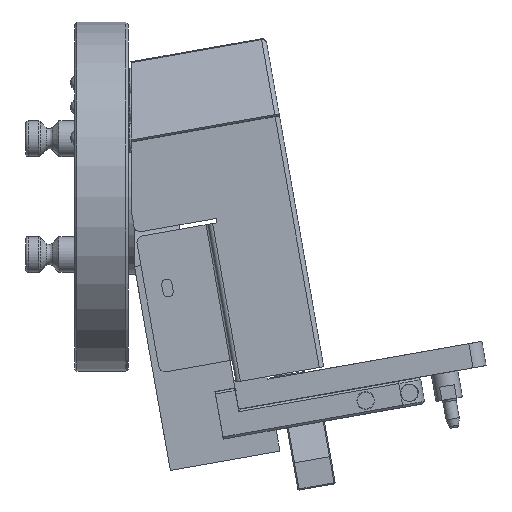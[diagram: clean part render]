
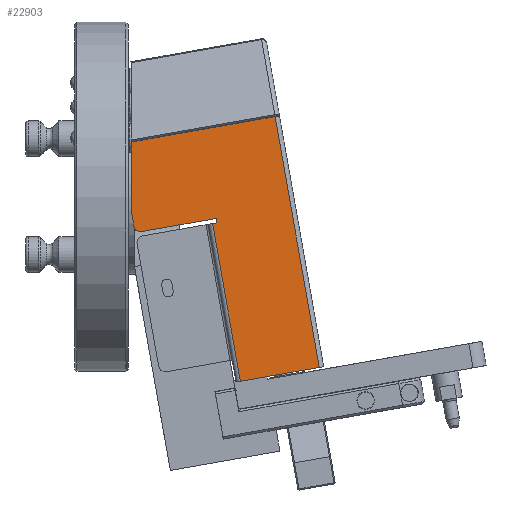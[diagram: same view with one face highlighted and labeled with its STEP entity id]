
A CAD part, left-side view. The second image highlights one B-rep face of the part: STEP entity #22903.
In plain terms, the highlighted planar face has unit normal (-1, 0, 0).
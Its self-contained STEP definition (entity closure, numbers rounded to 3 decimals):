
#485 = EDGE_CURVE ( 'NONE', #31396, #24167, #24970, .T. ) ;
#1887 = ORIENTED_EDGE ( 'NONE', *, *, #70259, .T. ) ;
#1906 = EDGE_LOOP ( 'NONE', ( #1887, #30608, #12468, #6319, #1933, #24823, #33830, #30726, #48751, #12659, #12926 ) ) ;
#1933 = ORIENTED_EDGE ( 'NONE', *, *, #485, .T. ) ;
#2091 = LINE ( 'NONE', #24158, #23236 ) ;
#2111 = LINE ( 'NONE', #23821, #57669 ) ;
#5408 = CARTESIAN_POINT ( 'NONE',  ( -82.5, -66.034, 35.965 ) ) ;
#6001 = DIRECTION ( 'NONE',  ( 0., 0.985, -0.174 ) ) ;
#6290 = CARTESIAN_POINT ( 'NONE',  ( -82.5, -1.405, -6.116 ) ) ;
#6319 = ORIENTED_EDGE ( 'NONE', *, *, #41934, .T. ) ;
#7022 = EDGE_CURVE ( 'NONE', #33343, #34718, #2091, .T. ) ;
#7028 = VECTOR ( 'NONE', #57898, 1000. ) ;
#7792 = LINE ( 'NONE', #70301, #59982 ) ;
#8459 = CARTESIAN_POINT ( 'NONE',  ( -82.5, -85.913, -76.774 ) ) ;
#10186 = CARTESIAN_POINT ( 'NONE',  ( -82.5, -50.46, -83.025 ) ) ;
#10279 = DIRECTION ( 'NONE',  ( -1., 0., 0. ) ) ;
#10369 = VECTOR ( 'NONE', #56193, 1000. ) ;
#11945 = PLANE ( 'NONE',  #25642 ) ;
#12468 = ORIENTED_EDGE ( 'NONE', *, *, #15919, .T. ) ;
#12659 = ORIENTED_EDGE ( 'NONE', *, *, #49418, .F. ) ;
#12926 = ORIENTED_EDGE ( 'NONE', *, *, #7022, .T. ) ;
#13125 = DIRECTION ( 'NONE',  ( 0., 0.985, -0.174 ) ) ;
#13584 = VERTEX_POINT ( 'NONE', #6290 ) ;
#15447 = DIRECTION ( 'NONE',  ( 0., 0.985, -0.174 ) ) ;
#15919 = EDGE_CURVE ( 'NONE', #40445, #29318, #41646, .T. ) ;
#17007 = CARTESIAN_POINT ( 'NONE',  ( -82.5, -1.45, -6.637 ) ) ;
#17594 = VERTEX_POINT ( 'NONE', #24912 ) ;
#18310 = CARTESIAN_POINT ( 'NONE',  ( -82.5, -75.032, -3.551 ) ) ;
#20168 = LINE ( 'NONE', #8459, #67220 ) ;
#22503 = EDGE_CURVE ( 'NONE', #47859, #36183, #2111, .T. ) ;
#22903 = ADVANCED_FACE ( 'NONE', ( #67497 ), #11945, .F. ) ;
#23033 = EDGE_CURVE ( 'NONE', #17594, #61706, #41535, .T. ) ;
#23236 = VECTOR ( 'NONE', #40996, 1000. ) ;
#23821 = CARTESIAN_POINT ( 'NONE',  ( -82.5, -75.38, -5.52 ) ) ;
#23994 = DIRECTION ( 'NONE',  ( -1., 0., 0. ) ) ;
#24158 = CARTESIAN_POINT ( 'NONE',  ( -82.5, -68.003, 36.312 ) ) ;
#24167 = VERTEX_POINT ( 'NONE', #31069 ) ;
#24812 = CARTESIAN_POINT ( 'NONE',  ( -82.5, -15.991, -89.103 ) ) ;
#24823 = ORIENTED_EDGE ( 'NONE', *, *, #34202, .T. ) ;
#24912 = CARTESIAN_POINT ( 'NONE',  ( -82.5, -85.913, -76.774 ) ) ;
#24970 = LINE ( 'NONE', #18310, #40372 ) ;
#25259 = AXIS2_PLACEMENT_3D ( 'NONE', #40488, #23994, #6001 ) ;
#25642 = AXIS2_PLACEMENT_3D ( 'NONE', #27374, #44269, #66760 ) ;
#26662 = VECTOR ( 'NONE', #65456, 1000. ) ;
#27374 = CARTESIAN_POINT ( 'NONE',  ( -82.5, -87.882, -76.426 ) ) ;
#29318 = VERTEX_POINT ( 'NONE', #31939 ) ;
#30608 = ORIENTED_EDGE ( 'NONE', *, *, #55192, .T. ) ;
#30726 = ORIENTED_EDGE ( 'NONE', *, *, #59647, .F. ) ;
#31069 = CARTESIAN_POINT ( 'NONE',  ( -82.5, -39.579, -9.802 ) ) ;
#31396 = VERTEX_POINT ( 'NONE', #32480 ) ;
#31939 = CARTESIAN_POINT ( 'NONE',  ( -82.5, -2.62, -13.272 ) ) ;
#32004 = CARTESIAN_POINT ( 'NONE',  ( -82.5, -1.405, -76.426 ) ) ;
#32480 = CARTESIAN_POINT ( 'NONE',  ( -82.5, -6.096, -15.706 ) ) ;
#33030 = CARTESIAN_POINT ( 'NONE',  ( -82.5, -5.575, -12.752 ) ) ;
#33343 = VERTEX_POINT ( 'NONE', #5408 ) ;
#33804 = LINE ( 'NONE', #40363, #10369 ) ;
#33830 = ORIENTED_EDGE ( 'NONE', *, *, #22503, .T. ) ;
#34202 = EDGE_CURVE ( 'NONE', #24167, #47859, #33804, .T. ) ;
#34718 = VERTEX_POINT ( 'NONE', #52680 ) ;
#36183 = VERTEX_POINT ( 'NONE', #39794 ) ;
#37108 = DIRECTION ( 'NONE',  ( 0., 0.985, -0.174 ) ) ;
#37325 = AXIS2_PLACEMENT_3D ( 'NONE', #33030, #10279, #37108 ) ;
#37832 = DIRECTION ( 'NONE',  ( 0., -0.174, -0.985 ) ) ;
#38615 = VECTOR ( 'NONE', #15447, 1000. ) ;
#39794 = CARTESIAN_POINT ( 'NONE',  ( -82.5, -37.957, -12.119 ) ) ;
#40363 = CARTESIAN_POINT ( 'NONE',  ( -82.5, -52.429, -82.678 ) ) ;
#40372 = VECTOR ( 'NONE', #40719, 1000. ) ;
#40445 = VERTEX_POINT ( 'NONE', #17007 ) ;
#40488 = CARTESIAN_POINT ( 'NONE',  ( -82.5, -4.405, -6.116 ) ) ;
#40719 = DIRECTION ( 'NONE',  ( 0., -0.985, 0.174 ) ) ;
#40804 = CIRCLE ( 'NONE', #37325, 3. ) ;
#40845 = CARTESIAN_POINT ( 'NONE',  ( -82.5, -39.927, -11.772 ) ) ;
#40996 = DIRECTION ( 'NONE',  ( 0., 0.985, -0.174 ) ) ;
#41535 = LINE ( 'NONE', #54377, #38615 ) ;
#41646 = LINE ( 'NONE', #24812, #7028 ) ;
#41934 = EDGE_CURVE ( 'NONE', #29318, #31396, #40804, .T. ) ;
#42784 = CIRCLE ( 'NONE', #25259, 3. ) ;
#42990 = LINE ( 'NONE', #32004, #26662 ) ;
#44269 = DIRECTION ( 'NONE',  ( 1., 0., 0. ) ) ;
#47859 = VERTEX_POINT ( 'NONE', #40845 ) ;
#48751 = ORIENTED_EDGE ( 'NONE', *, *, #23033, .F. ) ;
#49418 = EDGE_CURVE ( 'NONE', #33343, #17594, #20168, .T. ) ;
#52680 = CARTESIAN_POINT ( 'NONE',  ( -82.5, -1.405, 24.569 ) ) ;
#54377 = CARTESIAN_POINT ( 'NONE',  ( -82.5, -87.882, -76.426 ) ) ;
#55192 = EDGE_CURVE ( 'NONE', #13584, #40445, #42784, .T. ) ;
#56193 = DIRECTION ( 'NONE',  ( 0., -0.174, -0.985 ) ) ;
#57669 = VECTOR ( 'NONE', #13125, 1000. ) ;
#57898 = DIRECTION ( 'NONE',  ( 0., -0.174, -0.985 ) ) ;
#58502 = DIRECTION ( 'NONE',  ( 0., 0.174, 0.985 ) ) ;
#59647 = EDGE_CURVE ( 'NONE', #61706, #36183, #7792, .T. ) ;
#59982 = VECTOR ( 'NONE', #58502, 1000. ) ;
#61706 = VERTEX_POINT ( 'NONE', #10186 ) ;
#65456 = DIRECTION ( 'NONE',  ( 0., 0., -1. ) ) ;
#66760 = DIRECTION ( 'NONE',  ( 0., 0.985, -0.174 ) ) ;
#67220 = VECTOR ( 'NONE', #37832, 1000. ) ;
#67497 = FACE_OUTER_BOUND ( 'NONE', #1906, .T. ) ;
#70259 = EDGE_CURVE ( 'NONE', #34718, #13584, #42990, .T. ) ;
#70301 = CARTESIAN_POINT ( 'NONE',  ( -82.5, -50.46, -83.025 ) ) ;
